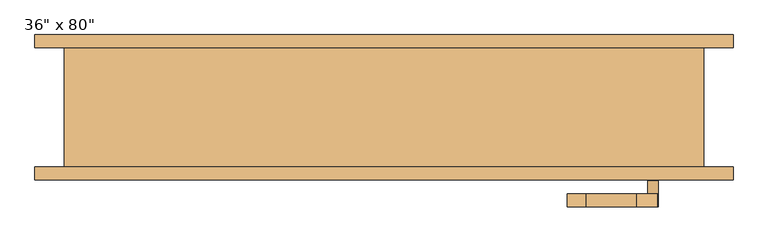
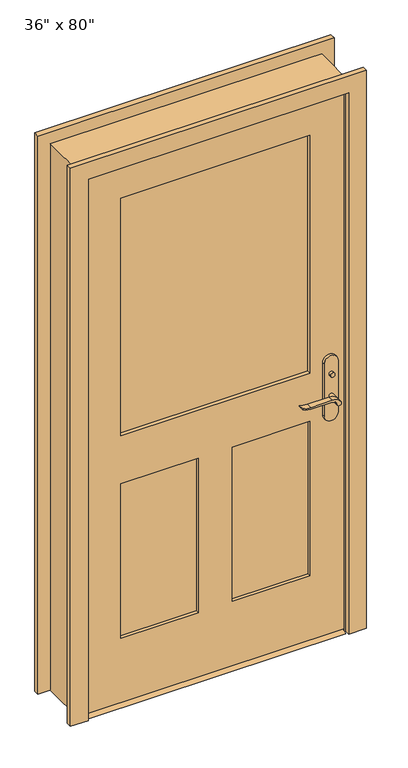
"""IFC4 building model written with IfcOpenShell, lengths in millimetres: door geometry."""

from ifc_helpers import new_model, si_unit, point, frame, frame_2d, origin, place, context, project, spatial, polyline, circle_curve, trimmed, segment, composite_curve, outline, extrude, faceted_brep, source, transform, mapped, element, save


def door_a3c49eca(model_context):
    return source(origin(), model_context, "Body", "SolidModel", [
        extrude(outline(polyline([(-38.1, 12.7), (-12.7, 0.0), (-98.425, 0.0), (-73.025, 12.7), (-38.1, 12.7)])), frame((-457.2, 0.0, 0.0), z_axis=(1.0, 0.0, 0.0), x_axis=(0.0, 1.0, 0.0)), (0.0, 0.0, 1.0), 914.4),
        extrude(outline(polyline([(411.4, -32.3875), (411.4, -42.3875), (401.4, -42.3875), (401.4, -32.3875), (411.4, -32.3875)])), frame((0.0, 0.0, 981.9), z_axis=(0.0, 0.0, 1.0), x_axis=(1.0, 0.0, 0.0)), (0.0, 0.0, 1.0), 30.0),
        extrude(outline(composite_curve([segment(trimmed(circle_curve(frame_2d((996.9, 406.4)), 8.0), [point((996.9, 398.4))], [point((996.9, 414.4))], False, "CARTESIAN"), True, "CONTINUOUS"), segment(trimmed(circle_curve(frame_2d((996.9, 406.4)), 8.0), [point((996.9, 414.4))], [point((996.9, 398.4))], False, "CARTESIAN"), True, "CONTINUOUS")], self_intersect=False)), frame((0.0, -107.3125, 0.0), z_axis=(0.0, 1.0, 0.0), x_axis=(0.0, 0.0, 1.0)), (0.0, 0.0, 1.0), 10.0),
        extrude(outline(composite_curve([segment(trimmed(circle_curve(frame_2d((897.1555521, 382.7324871)), 37.2832219), [point((919.0523287, 412.9081363))], [point((934.4, 381.0325667))], False, "CARTESIAN"), True, "CONTINUOUS"), segment(polyline([(934.4, 381.0325667), (934.4, 304.7564091)]), True, "CONTINUOUS"), segment(trimmed(circle_curve(frame_2d((1017.6850638, 304.8227909)), 83.2850902), [point((934.4, 304.7564091))], [point((939.4, 276.4))], True, "CARTESIAN"), True, "CONTINUOUS"), segment(polyline([(939.4, 276.4), (936.6135558, 276.4)]), True, "CONTINUOUS"), segment(trimmed(circle_curve(frame_2d((986.6709207, 308.3396612)), 59.3791355), [point((936.6135558, 276.4))], [point((927.4, 304.7564091))], False, "CARTESIAN"), True, "CONTINUOUS"), segment(polyline([(927.4, 304.7564091), (927.4, 381.0138099)]), True, "CONTINUOUS"), segment(trimmed(circle_curve(frame_2d((909.2738613, 381.0138099)), 18.1261387), [point((927.4, 381.0138099))], [point((914.4, 398.4))], True, "CARTESIAN"), True, "CONTINUOUS"), segment(trimmed(circle_curve(frame_2d((914.4, 406.4)), 8.0), [point((914.4, 398.4))], [point((919.0523287, 412.9081363))], False, "CARTESIAN"), True, "CONTINUOUS")], self_intersect=False)), frame((0.0, -12.3875, 0.0), z_axis=(0.0, 1.0, 0.0), x_axis=(0.0, 0.0, 1.0)), (0.0, 0.0, 1.0), 20.0),
        extrude(outline(composite_curve([segment(trimmed(circle_curve(frame_2d((914.4, 406.4)), 8.0), [point((914.3999903, 398.4))], [point((919.0523287, 412.9081363))], False, "CARTESIAN"), True, "CONTINUOUS"), segment(trimmed(circle_curve(frame_2d((897.1555521, 382.7324871)), 37.2832219), [point((919.0523287, 412.9081363))], [point((934.4, 381.0325667))], False, "CARTESIAN"), True, "CONTINUOUS"), segment(polyline([(934.4, 381.0325667), (934.4, 304.7564091)]), True, "CONTINUOUS"), segment(trimmed(circle_curve(frame_2d((1017.6850638, 304.8227909)), 83.2850902), [point((934.4, 304.7564091))], [point((939.4, 276.4))], True, "CARTESIAN"), True, "CONTINUOUS"), segment(polyline([(939.4, 276.4), (936.6135558, 276.4)]), True, "CONTINUOUS"), segment(trimmed(circle_curve(frame_2d((986.6709207, 308.3396612)), 59.3791355), [point((936.6135558, 276.4))], [point((927.4, 304.7564091))], False, "CARTESIAN"), True, "CONTINUOUS"), segment(polyline([(927.4, 304.7564091), (927.4, 381.0138122)]), True, "CONTINUOUS"), segment(trimmed(circle_curve(frame_2d((909.2738682, 381.0138122)), 18.1261318), [point((927.4, 381.0138122))], [point((914.3999903, 398.4))], True, "CARTESIAN"), True, "CONTINUOUS")], self_intersect=False)), frame((0.0, -147.3125, 0.0), z_axis=(0.0, 1.0, 0.0), x_axis=(0.0, 0.0, 1.0)), (0.0, 0.0, 1.0), 20.0),
        extrude(outline(composite_curve([segment(trimmed(circle_curve(frame_2d((914.4, 406.4)), 8.0), [point((914.4, 398.4))], [point((914.4, 414.4))], False, "CARTESIAN"), True, "CONTINUOUS"), segment(trimmed(circle_curve(frame_2d((914.4, 406.4)), 8.0), [point((914.4, 414.4))], [point((914.4, 398.4))], False, "CARTESIAN"), True, "CONTINUOUS")], self_intersect=False)), frame((0.0, -42.3875, 0.0), z_axis=(0.0, 1.0, 0.0), x_axis=(0.0, 0.0, 1.0)), (0.0, 0.0, 1.0), 30.0),
        extrude(outline(composite_curve([segment(trimmed(circle_curve(frame_2d((914.4, 406.4)), 8.0), [point((914.4, 398.4))], [point((914.4, 414.4))], False, "CARTESIAN"), True, "CONTINUOUS"), segment(trimmed(circle_curve(frame_2d((914.4, 406.4)), 8.0), [point((914.4, 414.4))], [point((914.4, 398.4))], False, "CARTESIAN"), True, "CONTINUOUS")], self_intersect=False)), frame((0.0, -127.3125, 0.0), z_axis=(0.0, 1.0, 0.0), x_axis=(0.0, 0.0, 1.0)), (0.0, 0.0, 1.0), 30.0),
        extrude(outline(composite_curve([segment(polyline([(844.4, 431.4), (1039.4, 431.4)]), True, "CONTINUOUS"), segment(trimmed(circle_curve(frame_2d((1039.4, 406.4)), 25.0), [point((1039.4, 431.4))], [point((1039.4, 381.4))], False, "CARTESIAN"), True, "CONTINUOUS"), segment(polyline([(1039.4, 381.4), (844.4, 381.4)]), True, "CONTINUOUS"), segment(trimmed(circle_curve(frame_2d((844.4, 406.4)), 25.0), [point((844.4, 381.4))], [point((844.4, 431.4))], False, "CARTESIAN"), True, "CONTINUOUS")], self_intersect=False)), frame((0.0, -52.3875, 0.0), z_axis=(0.0, 1.0, 0.0), x_axis=(0.0, 0.0, 1.0)), (0.0, 0.0, 1.0), 10.0),
        extrude(outline(composite_curve([segment(polyline([(844.4, 431.4), (1039.4, 431.4)]), True, "CONTINUOUS"), segment(trimmed(circle_curve(frame_2d((1039.4, 406.4)), 25.0), [point((1039.4, 431.4))], [point((1039.4, 381.4))], False, "CARTESIAN"), True, "CONTINUOUS"), segment(polyline([(1039.4, 381.4), (844.4, 381.4)]), True, "CONTINUOUS"), segment(trimmed(circle_curve(frame_2d((844.4, 406.4)), 25.0), [point((844.4, 381.4))], [point((844.4, 431.4))], False, "CARTESIAN"), True, "CONTINUOUS")], self_intersect=False)), frame((0.0, -97.3125, 0.0), z_axis=(0.0, 1.0, 0.0), x_axis=(0.0, 0.0, 1.0)), (0.0, 0.0, 1.0), 10.0),
        extrude(outline(polyline([(2032.0, -457.2), (12.7, -457.2), (12.7, 457.2), (2032.0, 457.2), (2032.0, -457.2)]), holes=[polyline([(1016.0, -336.55), (1911.35, -336.55), (1911.35, 336.55), (1016.0, 336.55), (1016.0, -336.55)]), polyline([(835.025, -60.325), (254.0, -60.325), (254.0, -336.55), (835.025, -336.55), (835.025, -60.325)]), polyline([(835.025, 336.55), (254.0, 336.55), (254.0, 60.325), (835.025, 60.325), (835.025, 336.55)])]), frame((0.0, -87.3125, 0.0), z_axis=(0.0, 1.0, 0.0), x_axis=(0.0, 0.0, 1.0)), (0.0, 0.0, 1.0), 34.925),
        faceted_brep([(482.6, -87.3125, 0.0), (457.2, -87.3125, 0.0), (457.2, -52.3875, 0.0), (444.5, -52.3875, 0.0), (444.5, -17.4625, 0.0), (457.2, -17.4625, 0.0), (457.2, 93.6625, 0.0), (482.6, 93.6625, 0.0), (482.6, 93.6625, 2057.4), (482.6, -87.3125, 2057.4), (457.2, 93.6625, 2032.0), (-457.2, 93.6625, 2032.0), (-457.2, 93.6625, 0.0), (-482.6, 93.6625, 0.0), (-482.6, 93.6625, 2057.4), (457.2, -17.4625, 2032.0), (444.5, -17.4625, 2019.3), (-444.5, -17.4625, 2019.3), (-444.5, -17.4625, 0.0), (-457.2, -17.4625, 0.0), (-457.2, -17.4625, 2032.0), (444.5, -52.3875, 2019.3), (457.2, -52.3875, 2032.0), (-457.2, -52.3875, 2032.0), (-457.2, -52.3875, 0.0), (-444.5, -52.3875, 0.0), (-444.5, -52.3875, 2019.3), (457.2, -87.3125, 2032.0), (-482.6, -87.3125, 2057.4), (-482.6, -87.3125, 0.0), (-457.2, -87.3125, 0.0), (-457.2, -87.3125, 2032.0)], [[[0, 1, 2, 3, 4, 5, 6, 7]], [[7, 8, 9, 0]], [[6, 10, 11, 12, 13, 14, 8, 7]], [[5, 15, 10, 6]], [[4, 16, 17, 18, 19, 20, 15, 5]], [[3, 21, 16, 4]], [[2, 22, 23, 24, 25, 26, 21, 3]], [[1, 27, 22, 2]], [[0, 9, 28, 29, 30, 31, 27, 1]], [[8, 14, 28, 9]], [[15, 20, 11, 10]], [[21, 26, 17, 16]], [[27, 31, 23, 22]], [[29, 13, 12, 19, 18, 25, 24, 30]], [[14, 13, 29, 28]], [[20, 19, 12, 11]], [[26, 25, 18, 17]], [[31, 30, 24, 23]]]),
        extrude(outline(polyline([(-60.325, -64.0291667), (-60.325, -75.6708333), (-336.55, -75.6708333), (-336.55, -64.0291667), (-60.325, -64.0291667)])), frame((0.0, 0.0, 254.0), z_axis=(0.0, 0.0, 1.0), x_axis=(1.0, 0.0, 0.0)), (0.0, 0.0, 1.0), 581.025),
        extrude(outline(polyline([(336.55, -64.0291667), (336.55, -75.6708333), (60.325, -75.6708333), (60.325, -64.0291667), (336.55, -64.0291667)])), frame((0.0, 0.0, 254.0), z_axis=(0.0, 0.0, 1.0), x_axis=(1.0, 0.0, 0.0)), (0.0, 0.0, 1.0), 581.025),
        extrude(outline(polyline([(336.55, -66.3575), (336.55, -73.3425), (-336.55, -73.3425), (-336.55, -66.3575), (336.55, -66.3575)])), frame((0.0, 0.0, 1016.0), z_axis=(0.0, 0.0, 1.0), x_axis=(1.0, 0.0, 0.0)), (0.0, 0.0, 1.0), 895.35),
        extrude(outline(polyline([(0.0, -463.55), (2038.35, -463.55), (2038.35, 463.55), (0.0, 463.55), (0.0, 527.05), (2101.85, 527.05), (2101.85, -527.05), (0.0, -527.05), (0.0, -463.55)])), frame((0.0, 93.6625, 0.0), z_axis=(0.0, 1.0, 0.0), x_axis=(0.0, 0.0, 1.0)), (0.0, 0.0, 1.0), 19.05),
        extrude(outline(polyline([(0.0, -463.55), (2038.35, -463.55), (2038.35, 463.55), (0.0, 463.55), (0.0, 527.05), (2101.85, 527.05), (2101.85, -527.05), (0.0, -527.05), (0.0, -463.55)])), frame((0.0, -106.3625, 0.0), z_axis=(0.0, 1.0, 0.0), x_axis=(0.0, 0.0, 1.0)), (0.0, 0.0, 1.0), 19.05),
    ])


if __name__ == "__main__":
    model = new_model("IFC4")
    model_context = context("Model", 3, world=origin())
    ifc_project = project(units=[si_unit("LENGTHUNIT", "METRE", prefix="MILLI")], contexts=[model_context])
    site = spatial("IfcSite", under=ifc_project)
    building = spatial("IfcBuilding", under=site)
    placement = place(None, origin())
    door_shape = door_a3c49eca(model_context)
    element("IfcDoor", 1, ObjectType="Door-Exterior-Single-Entry-Half Flat Glass-Wood_Clad : 36\" x 80\"", at=placement, inside=building, context=model_context, shape_type="MappedRepresentation", body=[
        mapped(door_shape, transform((0.0, 0.0, 0.0), x_axis=(1.0, 0.0, 0.0), y_axis=(0.0, 1.0, 0.0), z_axis=(0.0, 0.0, 1.0))),
    ])
    save(model, "model.ifc")
